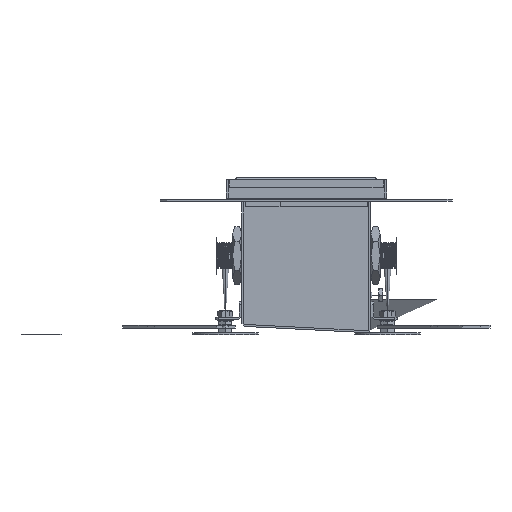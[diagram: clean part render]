
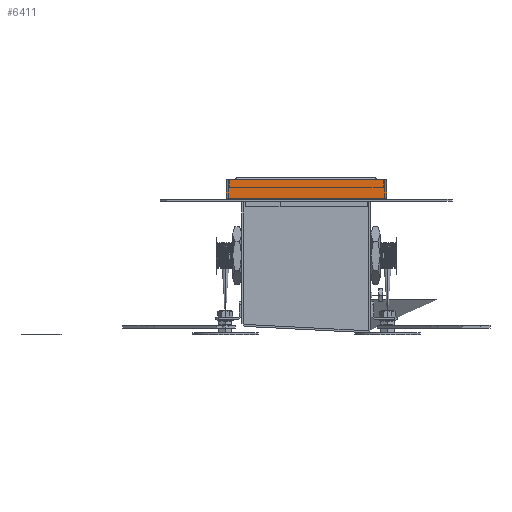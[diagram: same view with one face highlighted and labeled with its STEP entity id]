
A CAD part, left-side view. The second image highlights one B-rep face of the part: STEP entity #6411.
In plain terms, the highlighted free-form (B-spline) face has degree [1, 1] with [2, 2] control points.
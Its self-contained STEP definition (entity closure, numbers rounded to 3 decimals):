
#3785=(
BOUNDED_SURFACE()
B_SPLINE_SURFACE(2,1,((#182763,#182764),(#182765,#182766),(#182767,#182768),
(#182769,#182770),(#182771,#182772),(#182773,#182774),(#182775,#182776),
(#182777,#182778),(#182779,#182780)),.UNSPECIFIED.,.T.,.F.,.F.)
B_SPLINE_SURFACE_WITH_KNOTS((3,2,2,2,3),(2,2),(0.,1.571,3.142,
4.712,6.283),(0.,147.259),.UNSPECIFIED.)
GEOMETRIC_REPRESENTATION_ITEM()
RATIONAL_B_SPLINE_SURFACE(((1.,1.),(0.707,0.707),
(1.,1.),(0.707,0.707),(1.,1.),(0.707,
0.707),(1.,1.),(0.707,0.707),(1.,1.)))
REPRESENTATION_ITEM('')
SURFACE()
);
#3792=(
BOUNDED_SURFACE()
B_SPLINE_SURFACE(1,2,((#182889,#182890,#182891,#182892,#182893,#182894,
#182895,#182896,#182897),(#182898,#182899,#182900,#182901,#182902,#182903,
#182904,#182905,#182906)),.UNSPECIFIED.,.F.,.F.,.F.)
B_SPLINE_SURFACE_WITH_KNOTS((2,2),(3,2,2,2,3),(0.,148.699),(0.,1.571,
3.142,4.712,6.283),.UNSPECIFIED.)
GEOMETRIC_REPRESENTATION_ITEM()
RATIONAL_B_SPLINE_SURFACE(((1.,0.707,1.,0.707,1.,
0.707,1.,0.707,1.),(1.,0.707,1.,0.707,
1.,0.707,1.,0.707,1.)))
REPRESENTATION_ITEM('')
SURFACE()
);
#6411=ADVANCED_FACE('',(#8268),#52954,.T.);
#8268=FACE_OUTER_BOUND('',#10472,.T.);
#10472=EDGE_LOOP('',(#18543,#18544,#18545,#18546));
#18543=ORIENTED_EDGE('',*,*,#48356,.T.);
#18544=ORIENTED_EDGE('',*,*,#48357,.T.);
#18545=ORIENTED_EDGE('',*,*,#48358,.T.);
#18546=ORIENTED_EDGE('',*,*,#48354,.F.);
#28015=PCURVE('',#52953,#37489);
#28017=PCURVE('',#52954,#37491);
#28018=PCURVE('',#52954,#37492);
#28019=PCURVE('',#52954,#37493);
#28020=PCURVE('',#52954,#37494);
#28024=PCURVE('',#52955,#37498);
#28155=PCURVE('',#3785,#37629);
#28183=PCURVE('',#3792,#37657);
#37489=DEFINITIONAL_REPRESENTATION('',(#63340),#196174);
#37491=DEFINITIONAL_REPRESENTATION('',(#63344),#196174);
#37492=DEFINITIONAL_REPRESENTATION('',(#63346),#196174);
#37493=DEFINITIONAL_REPRESENTATION('',(#63348),#196174);
#37494=DEFINITIONAL_REPRESENTATION('',(#63349),#196174);
#37498=DEFINITIONAL_REPRESENTATION('',(#63356),#196174);
#37629=DEFINITIONAL_REPRESENTATION('',(#63495),#196174);
#37657=DEFINITIONAL_REPRESENTATION('',(#63523),#196174);
#43420=SURFACE_CURVE('',#63339,(#28015,#28020),.PCURVE_S1.);
#43422=SURFACE_CURVE('',#63343,(#28017,#28183),.PCURVE_S1.);
#43423=SURFACE_CURVE('',#63345,(#28018,#28024),.PCURVE_S1.);
#43424=SURFACE_CURVE('',#63347,(#28019,#28155),.PCURVE_S1.);
#48354=EDGE_CURVE('',#51959,#51957,#43420,.T.);
#48356=EDGE_CURVE('',#51959,#51960,#43422,.T.);
#48357=EDGE_CURVE('',#51960,#51961,#43423,.T.);
#48358=EDGE_CURVE('',#51961,#51957,#43424,.T.);
#51957=VERTEX_POINT('',#186225);
#51959=VERTEX_POINT('',#186227);
#51960=VERTEX_POINT('',#186228);
#51961=VERTEX_POINT('',#186229);
#52953=B_SPLINE_SURFACE_WITH_KNOTS('',1,1,((#182431,#182432),(#182433,#182434)),
 .UNSPECIFIED.,.F.,.F.,.F.,(2,2),(2,2),(-18.44,-0.06),(-431.83,
431.83),.UNSPECIFIED.);
#52954=B_SPLINE_SURFACE_WITH_KNOTS('',1,1,((#182435,#182436),(#182437,#182438)),
 .UNSPECIFIED.,.F.,.F.,.F.,(2,2),(2,2),(-18.44,-0.06),(-131.78,
15.48),.UNSPECIFIED.);
#52955=B_SPLINE_SURFACE_WITH_KNOTS('',1,1,((#182439,#182440),(#182441,#182442)),
 .UNSPECIFIED.,.F.,.F.,.F.,(2,2),(2,2),(-18.44,-0.06),(-788.48,
75.18),.UNSPECIFIED.);
#63339=B_SPLINE_CURVE_WITH_KNOTS('',1,(#188067,#188068),.UNSPECIFIED.,.F.,
 .F.,(2,2),(0.,14.3),.UNSPECIFIED.);
#63340=B_SPLINE_CURVE_WITH_KNOTS('',1,(#188069,#188070),.UNSPECIFIED.,.F.,
 .F.,(2,2),(0.,14.3),.UNSPECIFIED.);
#63343=B_SPLINE_CURVE_WITH_KNOTS('',1,(#188075,#188076),.UNSPECIFIED.,.F.,
 .F.,(2,2),(0.,121.7),.UNSPECIFIED.);
#63344=B_SPLINE_CURVE_WITH_KNOTS('',1,(#188077,#188078),.UNSPECIFIED.,.F.,
 .F.,(2,2),(0.,121.7),.UNSPECIFIED.);
#63345=B_SPLINE_CURVE_WITH_KNOTS('',1,(#188079,#188080),.UNSPECIFIED.,.F.,
 .F.,(2,2),(0.,14.3),.UNSPECIFIED.);
#63346=B_SPLINE_CURVE_WITH_KNOTS('',1,(#188081,#188082),.UNSPECIFIED.,.F.,
 .F.,(2,2),(0.,14.3),.UNSPECIFIED.);
#63347=B_SPLINE_CURVE_WITH_KNOTS('',1,(#188083,#188084),.UNSPECIFIED.,.F.,
 .F.,(2,2),(0.,121.7),.UNSPECIFIED.);
#63348=B_SPLINE_CURVE_WITH_KNOTS('',1,(#188085,#188086),.UNSPECIFIED.,.F.,
 .F.,(2,2),(0.,121.7),.UNSPECIFIED.);
#63349=B_SPLINE_CURVE_WITH_KNOTS('',1,(#188087,#188088),.UNSPECIFIED.,.F.,
 .F.,(2,2),(0.,14.3),.UNSPECIFIED.);
#63356=B_SPLINE_CURVE_WITH_KNOTS('',1,(#188101,#188102),.UNSPECIFIED.,.F.,
 .F.,(2,2),(0.,14.3),.UNSPECIFIED.);
#63495=B_SPLINE_CURVE_WITH_KNOTS('',1,(#188686,#188687),.UNSPECIFIED.,.F.,
 .F.,(2,2),(0.,121.7),.UNSPECIFIED.);
#63523=B_SPLINE_CURVE_WITH_KNOTS('',1,(#188834,#188835),.UNSPECIFIED.,.F.,
 .F.,(2,2),(0.,121.7),.UNSPECIFIED.);
#182431=CARTESIAN_POINT('',(37.,-125.03,10.142));
#182432=CARTESIAN_POINT('',(123.366,-125.03,10.142));
#182433=CARTESIAN_POINT('',(37.,-125.03,11.98));
#182434=CARTESIAN_POINT('',(123.366,-125.03,11.98));
#182435=CARTESIAN_POINT('',(44.248,-138.478,10.142));
#182436=CARTESIAN_POINT('',(44.248,-123.752,10.142));
#182437=CARTESIAN_POINT('',(44.248,-138.478,11.98));
#182438=CARTESIAN_POINT('',(44.248,-123.752,11.98));
#182439=CARTESIAN_POINT('',(123.366,-137.2,10.142));
#182440=CARTESIAN_POINT('',(37.,-137.2,10.142));
#182441=CARTESIAN_POINT('',(123.366,-137.2,11.98));
#182442=CARTESIAN_POINT('',(37.,-137.2,11.98));
#182763=CARTESIAN_POINT('',(44.458,-123.752,11.566));
#182764=CARTESIAN_POINT('',(44.458,-138.478,11.566));
#182765=CARTESIAN_POINT('',(44.668,-123.752,11.566));
#182766=CARTESIAN_POINT('',(44.668,-138.478,11.566));
#182767=CARTESIAN_POINT('',(44.668,-123.752,11.776));
#182768=CARTESIAN_POINT('',(44.668,-138.478,11.776));
#182769=CARTESIAN_POINT('',(44.668,-123.752,11.986));
#182770=CARTESIAN_POINT('',(44.668,-138.478,11.986));
#182771=CARTESIAN_POINT('',(44.458,-123.752,11.986));
#182772=CARTESIAN_POINT('',(44.458,-138.478,11.986));
#182773=CARTESIAN_POINT('',(44.248,-123.752,11.986));
#182774=CARTESIAN_POINT('',(44.248,-138.478,11.986));
#182775=CARTESIAN_POINT('',(44.248,-123.752,11.776));
#182776=CARTESIAN_POINT('',(44.248,-138.478,11.776));
#182777=CARTESIAN_POINT('',(44.248,-123.752,11.566));
#182778=CARTESIAN_POINT('',(44.248,-138.478,11.566));
#182779=CARTESIAN_POINT('',(44.458,-123.752,11.566));
#182780=CARTESIAN_POINT('',(44.458,-138.478,11.566));
#182889=CARTESIAN_POINT('',(44.128,-138.55,10.346));
#182890=CARTESIAN_POINT('',(44.128,-138.55,10.406));
#182891=CARTESIAN_POINT('',(44.188,-138.55,10.406));
#182892=CARTESIAN_POINT('',(44.248,-138.55,10.406));
#182893=CARTESIAN_POINT('',(44.248,-138.55,10.346));
#182894=CARTESIAN_POINT('',(44.248,-138.55,10.286));
#182895=CARTESIAN_POINT('',(44.188,-138.55,10.286));
#182896=CARTESIAN_POINT('',(44.128,-138.55,10.286));
#182897=CARTESIAN_POINT('',(44.128,-138.55,10.346));
#182898=CARTESIAN_POINT('',(44.128,-123.68,10.346));
#182899=CARTESIAN_POINT('',(44.128,-123.68,10.406));
#182900=CARTESIAN_POINT('',(44.188,-123.68,10.406));
#182901=CARTESIAN_POINT('',(44.248,-123.68,10.406));
#182902=CARTESIAN_POINT('',(44.248,-123.68,10.346));
#182903=CARTESIAN_POINT('',(44.248,-123.68,10.286));
#182904=CARTESIAN_POINT('',(44.188,-123.68,10.286));
#182905=CARTESIAN_POINT('',(44.128,-123.68,10.286));
#182906=CARTESIAN_POINT('',(44.128,-123.68,10.346));
#186225=CARTESIAN_POINT('',(44.248,-125.03,11.776));
#186227=CARTESIAN_POINT('',(44.248,-125.03,10.346));
#186228=CARTESIAN_POINT('',(44.248,-137.2,10.346));
#186229=CARTESIAN_POINT('',(44.248,-137.2,11.776));
#188067=CARTESIAN_POINT('',(44.248,-125.03,10.346));
#188068=CARTESIAN_POINT('',(44.248,-125.03,11.776));
#188069=CARTESIAN_POINT('',(-16.4,-359.35));
#188070=CARTESIAN_POINT('',(-2.1,-359.35));
#188075=CARTESIAN_POINT('',(44.248,-125.03,10.346));
#188076=CARTESIAN_POINT('',(44.248,-137.2,10.346));
#188077=CARTESIAN_POINT('',(-16.4,2.7));
#188078=CARTESIAN_POINT('',(-16.4,-119.));
#188079=CARTESIAN_POINT('',(44.248,-137.2,10.346));
#188080=CARTESIAN_POINT('',(44.248,-137.2,11.776));
#188081=CARTESIAN_POINT('',(-16.4,-119.));
#188082=CARTESIAN_POINT('',(-2.1,-119.));
#188083=CARTESIAN_POINT('',(44.248,-137.2,11.776));
#188084=CARTESIAN_POINT('',(44.248,-125.03,11.776));
#188085=CARTESIAN_POINT('',(-2.1,-119.));
#188086=CARTESIAN_POINT('',(-2.1,2.7));
#188087=CARTESIAN_POINT('',(-16.4,2.7));
#188088=CARTESIAN_POINT('',(-2.1,2.7));
#188101=CARTESIAN_POINT('',(-16.4,2.7));
#188102=CARTESIAN_POINT('',(-2.1,2.7));
#188686=CARTESIAN_POINT('',(4.712,134.48));
#188687=CARTESIAN_POINT('',(4.712,12.78));
#188834=CARTESIAN_POINT('',(135.2,3.142));
#188835=CARTESIAN_POINT('',(13.5,3.142));
#196174=(
GEOMETRIC_REPRESENTATION_CONTEXT(2)
PARAMETRIC_REPRESENTATION_CONTEXT()
REPRESENTATION_CONTEXT('pspace','')
);
